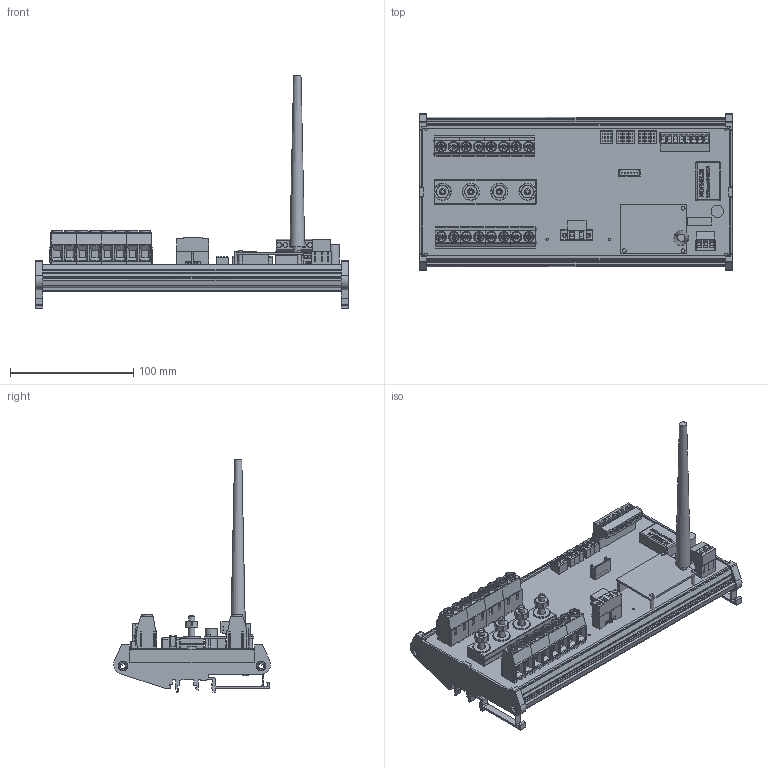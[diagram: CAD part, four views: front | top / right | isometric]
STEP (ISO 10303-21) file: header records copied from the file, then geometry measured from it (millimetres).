
FILE_DESCRIPTION(('FreeCAD Model'),'2;1');
FILE_NAME('C:/3D Files/Stringhe/ST0N/ST0N1625 WR/ST0N1625 WR.step', '2023-01-17T11:40:01',('Author'),(''), 'Open CASCADE STEP processor 7.3','FreeCAD','Unknown');
FILE_SCHEMA(('AUTOMOTIVE_DESIGN { 1 0 10303 214 1 1 1 1 }'));
Length unit declared in the file: millimetre
Products named in the file (48): ST0N1625_WR; Mstb_3P_F; Mstb_3Pc_M; AmpModu_6P_M; DipSwitch4; Stampato; Dado6MA003; Dado6MA004; Dado6MA005; Dado6MA006; Rondella6; Rondella007; Rondella008; Rondella009; CH_01-02; CH_03-04; CH_05-06; CH_09-10; CH_11-12; CH_13-14; CN3_M; Profilo_254x128; CN3_F; IB2405LS-1W; ELNA_470_uF_35_V; VTBSE-6x35; VTBSE-6x031; VTBSE-6x032; VTBSE-6x033; Barra_8.2a_cm; Barra_8.2a_cm001; Barra_8.2a_cm002; CH_07-08; CH_15-16; Mstb_8P_F; Mstb_8Pc_M; DipSwitch005; DipSwitch006; DipSwitch007; DipSwitch008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
Assembly tree (47 placements, depth 2):
  ST0N1625_WR
    Mstb_3P_F
    Mstb_3Pc_M
    AmpModu_6P_M
    DipSwitch4
    Stampato
    Dado6MA003
    Dado6MA004
    Dado6MA005
    Dado6MA006
    Rondella6
    Rondella007
    Rondella008
    Rondella009
    CH_01-02
    CH_03-04
    CH_05-06
    CH_09-10
    CH_11-12
    CH_13-14
    CN3_M
    Profilo_254x128
    CN3_F
    IB2405LS-1W
    ELNA_470_uF_35_V
    VTBSE-6x35
    VTBSE-6x031
    VTBSE-6x032
    VTBSE-6x033
    Barra_8.2a_cm
    Barra_8.2a_cm001
    Barra_8.2a_cm002
    CH_07-08
    CH_15-16
    Mstb_8P_F
    Mstb_8Pc_M
    DipSwitch005
    DipSwitch006
    DipSwitch007
    DipSwitch008
    Spacer-001
    Antenna
    Base_Antenna
    E108_Module
    Spacer-003
    Strip_7x1_e108
    Spacer-002
    WRB2403ZP-6WR003
Bounding box: 254 x 127.59 x 188.79 mm (x, y, z)
Volume: 273682.4 mm3; surface area: 274589.7 mm2
Topology: 75 solids, 114 shells, 4362 faces, 13724 edges, 14582 vertices
Faces by surface type: plane 3169, cylinder 764, bspline 217, cone 88, torus 70, sphere 52, extrusion 2
Full cylindrical faces by diameter (mm): 0.5 x4, 0.75 x52, 1 x10, 1.5 x11, 1.6 x2, 1.8 x2, 2.05 x2, 2.5 x2, 3.1 x3, 3.3 x2, 3.5 x2, 3.8 x2, 4 x15, 4.3 x2, 4.917 x4, 5 x8, 6 x1, 6.6 x4, 7 x12, 7.2 x16, 7.5 x16, 7.9 x4, 8.66 x16, 9.202 x2, 10 x5, 14 x4
Entity records: 348881 total; most frequent: CARTESIAN_POINT 79208, DIRECTION 42712, VECTOR 28363, LINE 28361, ORIENTED_EDGE 23249, PCURVE 23249, DEFINITIONAL_REPRESENTATION 23249, EDGE_CURVE 11987
